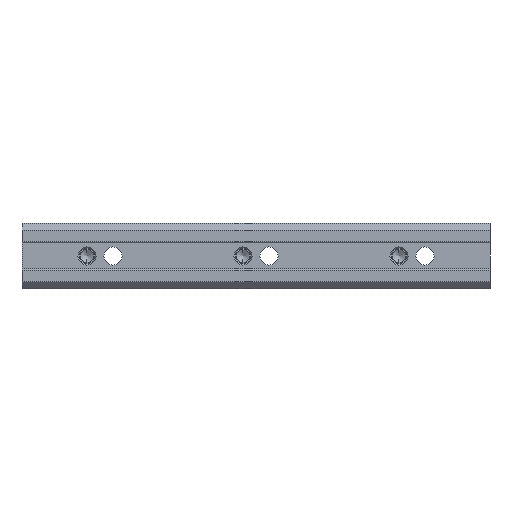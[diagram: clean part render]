
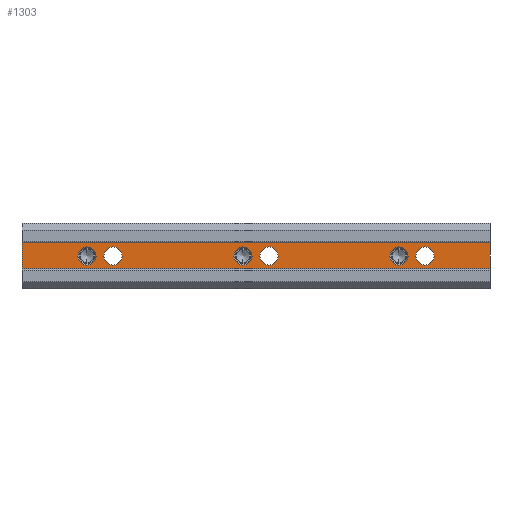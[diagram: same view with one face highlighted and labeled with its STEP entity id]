
A CAD part, front view. The second image highlights one B-rep face of the part: STEP entity #1303.
In plain terms, the highlighted planar face has unit normal (0, -1, 0).
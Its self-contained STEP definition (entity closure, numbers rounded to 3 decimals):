
#2 = LINE ( 'NONE', #354, #420 ) ;
#40 = AXIS2_PLACEMENT_3D ( 'NONE', #1088, #1925, #254 ) ;
#62 = ORIENTED_EDGE ( 'NONE', *, *, #1689, .T. ) ;
#83 = CARTESIAN_POINT ( 'NONE',  ( 25., 0.5, -3.5 ) ) ;
#87 = AXIS2_PLACEMENT_3D ( 'NONE', #1589, #723, #886 ) ;
#91 = EDGE_LOOP ( 'NONE', ( #1262, #941 ) ) ;
#96 = AXIS2_PLACEMENT_3D ( 'NONE', #1097, #2074, #1761 ) ;
#109 = EDGE_CURVE ( 'NONE', #430, #1278, #1981, .T. ) ;
#128 = DIRECTION ( 'NONE',  ( 0., 1., 0. ) ) ;
#132 = FACE_BOUND ( 'NONE', #91, .T. ) ;
#140 = DIRECTION ( 'NONE',  ( 0., 0., 1. ) ) ;
#157 = EDGE_CURVE ( 'NONE', #1154, #1553, #1290, .T. ) ;
#163 = ORIENTED_EDGE ( 'NONE', *, *, #1205, .T. ) ;
#169 = DIRECTION ( 'NONE',  ( 0., 0., -1. ) ) ;
#178 = DIRECTION ( 'NONE',  ( 0., 1., 0. ) ) ;
#186 = DIRECTION ( 'NONE',  ( 0., 1., 0. ) ) ;
#187 = CARTESIAN_POINT ( 'NONE',  ( 180., 0.5, -5. ) ) ;
#188 = CARTESIAN_POINT ( 'NONE',  ( 180., 0.5, -5. ) ) ;
#216 = AXIS2_PLACEMENT_3D ( 'NONE', #1579, #1928, #248 ) ;
#248 = DIRECTION ( 'NONE',  ( 0., 0., 1. ) ) ;
#254 = DIRECTION ( 'NONE',  ( 0., 0., 1. ) ) ;
#262 = ORIENTED_EDGE ( 'NONE', *, *, #314, .T. ) ;
#280 = VERTEX_POINT ( 'NONE', #1686 ) ;
#283 = VERTEX_POINT ( 'NONE', #188 ) ;
#291 = DIRECTION ( 'NONE',  ( 0., 0., 1. ) ) ;
#309 = PLANE ( 'NONE',  #364 ) ;
#314 = EDGE_CURVE ( 'NONE', #950, #1141, #1011, .T. ) ;
#322 = EDGE_LOOP ( 'NONE', ( #62, #163 ) ) ;
#323 = AXIS2_PLACEMENT_3D ( 'NONE', #1996, #1507, #508 ) ;
#329 = EDGE_CURVE ( 'NONE', #1879, #430, #2, .T. ) ;
#330 = ORIENTED_EDGE ( 'NONE', *, *, #157, .T. ) ;
#339 = VERTEX_POINT ( 'NONE', #1698 ) ;
#352 = VECTOR ( 'NONE', #676, 1000. ) ;
#354 = CARTESIAN_POINT ( 'NONE',  ( 180., 0.5, 5. ) ) ;
#359 = CIRCLE ( 'NONE', #1371, 3.5 ) ;
#364 = AXIS2_PLACEMENT_3D ( 'NONE', #975, #820, #1803 ) ;
#388 = EDGE_LOOP ( 'NONE', ( #330, #1775 ) ) ;
#400 = ORIENTED_EDGE ( 'NONE', *, *, #461, .T. ) ;
#415 = EDGE_CURVE ( 'NONE', #1879, #283, #1979, .T. ) ;
#420 = VECTOR ( 'NONE', #1174, 1000. ) ;
#430 = VERTEX_POINT ( 'NONE', #1335 ) ;
#461 = EDGE_CURVE ( 'NONE', #673, #946, #901, .T. ) ;
#499 = CARTESIAN_POINT ( 'NONE',  ( 25., 0.5, 0. ) ) ;
#508 = DIRECTION ( 'NONE',  ( 0., 0., 1. ) ) ;
#518 = CARTESIAN_POINT ( 'NONE',  ( 85., 0.5, 0. ) ) ;
#563 = CIRCLE ( 'NONE', #40, 3.5 ) ;
#569 = CARTESIAN_POINT ( 'NONE',  ( 85., 0.5, -3.5 ) ) ;
#574 = CARTESIAN_POINT ( 'NONE',  ( 155., 0.5, -3.5 ) ) ;
#575 = VERTEX_POINT ( 'NONE', #1377 ) ;
#608 = ORIENTED_EDGE ( 'NONE', *, *, #1521, .T. ) ;
#611 = LINE ( 'NONE', #1947, #1484 ) ;
#644 = CIRCLE ( 'NONE', #738, 3.5 ) ;
#664 = ORIENTED_EDGE ( 'NONE', *, *, #2010, .T. ) ;
#671 = AXIS2_PLACEMENT_3D ( 'NONE', #1785, #128, #291 ) ;
#673 = VERTEX_POINT ( 'NONE', #863 ) ;
#675 = AXIS2_PLACEMENT_3D ( 'NONE', #1682, #186, #1713 ) ;
#676 = DIRECTION ( 'NONE',  ( 0., 0., -1. ) ) ;
#703 = CARTESIAN_POINT ( 'NONE',  ( 145., 0.5, -3.5 ) ) ;
#723 = DIRECTION ( 'NONE',  ( 0., 1., 0. ) ) ;
#738 = AXIS2_PLACEMENT_3D ( 'NONE', #1103, #1641, #1940 ) ;
#758 = CARTESIAN_POINT ( 'NONE',  ( 145., 0.5, 3.5 ) ) ;
#795 = FACE_OUTER_BOUND ( 'NONE', #1178, .T. ) ;
#810 = FACE_BOUND ( 'NONE', #1323, .T. ) ;
#820 = DIRECTION ( 'NONE',  ( 0., 1., 0. ) ) ;
#823 = EDGE_CURVE ( 'NONE', #339, #575, #933, .T. ) ;
#863 = CARTESIAN_POINT ( 'NONE',  ( 155., 0.5, 3.5 ) ) ;
#886 = DIRECTION ( 'NONE',  ( 0., 0., 1. ) ) ;
#901 = CIRCLE ( 'NONE', #323, 3.5 ) ;
#912 = CARTESIAN_POINT ( 'NONE',  ( 25., 0.5, 3.5 ) ) ;
#917 = VERTEX_POINT ( 'NONE', #1918 ) ;
#933 = CIRCLE ( 'NONE', #96, 3.5 ) ;
#941 = ORIENTED_EDGE ( 'NONE', *, *, #823, .T. ) ;
#946 = VERTEX_POINT ( 'NONE', #574 ) ;
#950 = VERTEX_POINT ( 'NONE', #758 ) ;
#962 = VERTEX_POINT ( 'NONE', #1905 ) ;
#975 = CARTESIAN_POINT ( 'NONE',  ( 180., 0.5, -5. ) ) ;
#991 = CARTESIAN_POINT ( 'NONE',  ( 0., 0.5, -5. ) ) ;
#1011 = CIRCLE ( 'NONE', #2133, 3.5 ) ;
#1013 = CIRCLE ( 'NONE', #1045, 3.5 ) ;
#1045 = AXIS2_PLACEMENT_3D ( 'NONE', #518, #1806, #2132 ) ;
#1057 = EDGE_CURVE ( 'NONE', #1553, #1154, #1619, .T. ) ;
#1088 = CARTESIAN_POINT ( 'NONE',  ( 35., 0.5, 0. ) ) ;
#1097 = CARTESIAN_POINT ( 'NONE',  ( 35., 0.5, 0. ) ) ;
#1103 = CARTESIAN_POINT ( 'NONE',  ( 95., 0.5, 0. ) ) ;
#1116 = FACE_BOUND ( 'NONE', #322, .T. ) ;
#1141 = VERTEX_POINT ( 'NONE', #703 ) ;
#1154 = VERTEX_POINT ( 'NONE', #83 ) ;
#1169 = CIRCLE ( 'NONE', #216, 3.5 ) ;
#1174 = DIRECTION ( 'NONE',  ( -1., 0., 0. ) ) ;
#1178 = EDGE_LOOP ( 'NONE', ( #2166, #1221, #1659, #1787 ) ) ;
#1183 = VECTOR ( 'NONE', #169, 1000. ) ;
#1195 = DIRECTION ( 'NONE',  ( 0., 0., 1. ) ) ;
#1205 = EDGE_CURVE ( 'NONE', #917, #1902, #1867, .T. ) ;
#1221 = ORIENTED_EDGE ( 'NONE', *, *, #1978, .F. ) ;
#1262 = ORIENTED_EDGE ( 'NONE', *, *, #2005, .T. ) ;
#1278 = VERTEX_POINT ( 'NONE', #1765 ) ;
#1290 = CIRCLE ( 'NONE', #1388, 3.5 ) ;
#1303 = ADVANCED_FACE ( 'NONE', ( #1116, #1789, #810, #1627, #132, #795, #1976 ), #309, .F. ) ;
#1323 = EDGE_LOOP ( 'NONE', ( #1667, #1937 ) ) ;
#1327 = DIRECTION ( 'NONE',  ( 0., 1., 0. ) ) ;
#1335 = CARTESIAN_POINT ( 'NONE',  ( 0., 0.5, 5. ) ) ;
#1371 = AXIS2_PLACEMENT_3D ( 'NONE', #1623, #1609, #140 ) ;
#1377 = CARTESIAN_POINT ( 'NONE',  ( 35., 0.5, 3.5 ) ) ;
#1388 = AXIS2_PLACEMENT_3D ( 'NONE', #499, #1327, #2149 ) ;
#1392 = EDGE_CURVE ( 'NONE', #962, #280, #644, .T. ) ;
#1484 = VECTOR ( 'NONE', #1800, 1000. ) ;
#1507 = DIRECTION ( 'NONE',  ( 0., 1., 0. ) ) ;
#1521 = EDGE_CURVE ( 'NONE', #1141, #950, #1169, .T. ) ;
#1553 = VERTEX_POINT ( 'NONE', #912 ) ;
#1576 = CARTESIAN_POINT ( 'NONE',  ( 180., 0.5, 5. ) ) ;
#1579 = CARTESIAN_POINT ( 'NONE',  ( 145., 0.5, 0. ) ) ;
#1589 = CARTESIAN_POINT ( 'NONE',  ( 85., 0.5, 0. ) ) ;
#1609 = DIRECTION ( 'NONE',  ( 0., 1., 0. ) ) ;
#1619 = CIRCLE ( 'NONE', #675, 3.5 ) ;
#1623 = CARTESIAN_POINT ( 'NONE',  ( 95., 0.5, 0. ) ) ;
#1627 = FACE_BOUND ( 'NONE', #1656, .T. ) ;
#1641 = DIRECTION ( 'NONE',  ( 0., 1., 0. ) ) ;
#1656 = EDGE_LOOP ( 'NONE', ( #400, #664 ) ) ;
#1659 = ORIENTED_EDGE ( 'NONE', *, *, #415, .F. ) ;
#1667 = ORIENTED_EDGE ( 'NONE', *, *, #1392, .T. ) ;
#1682 = CARTESIAN_POINT ( 'NONE',  ( 25., 0.5, 0. ) ) ;
#1686 = CARTESIAN_POINT ( 'NONE',  ( 95., 0.5, -3.5 ) ) ;
#1689 = EDGE_CURVE ( 'NONE', #1902, #917, #1013, .T. ) ;
#1698 = CARTESIAN_POINT ( 'NONE',  ( 35., 0.5, -3.5 ) ) ;
#1713 = DIRECTION ( 'NONE',  ( 0., 0., 1. ) ) ;
#1761 = DIRECTION ( 'NONE',  ( 0., 0., 1. ) ) ;
#1765 = CARTESIAN_POINT ( 'NONE',  ( 0., 0.5, -5. ) ) ;
#1775 = ORIENTED_EDGE ( 'NONE', *, *, #1057, .T. ) ;
#1785 = CARTESIAN_POINT ( 'NONE',  ( 155., 0.5, 0. ) ) ;
#1787 = ORIENTED_EDGE ( 'NONE', *, *, #329, .T. ) ;
#1789 = FACE_BOUND ( 'NONE', #388, .T. ) ;
#1800 = DIRECTION ( 'NONE',  ( -1., 0., 0. ) ) ;
#1803 = DIRECTION ( 'NONE',  ( 0., 0., 1. ) ) ;
#1806 = DIRECTION ( 'NONE',  ( 0., 1., 0. ) ) ;
#1844 = CARTESIAN_POINT ( 'NONE',  ( 145., 0.5, 0. ) ) ;
#1867 = CIRCLE ( 'NONE', #87, 3.5 ) ;
#1879 = VERTEX_POINT ( 'NONE', #1576 ) ;
#1902 = VERTEX_POINT ( 'NONE', #569 ) ;
#1905 = CARTESIAN_POINT ( 'NONE',  ( 95., 0.5, 3.5 ) ) ;
#1918 = CARTESIAN_POINT ( 'NONE',  ( 85., 0.5, 3.5 ) ) ;
#1925 = DIRECTION ( 'NONE',  ( 0., 1., 0. ) ) ;
#1928 = DIRECTION ( 'NONE',  ( 0., 1., 0. ) ) ;
#1937 = ORIENTED_EDGE ( 'NONE', *, *, #1949, .T. ) ;
#1940 = DIRECTION ( 'NONE',  ( 0., 0., 1. ) ) ;
#1941 = EDGE_LOOP ( 'NONE', ( #608, #262 ) ) ;
#1947 = CARTESIAN_POINT ( 'NONE',  ( 180., 0.5, -5. ) ) ;
#1949 = EDGE_CURVE ( 'NONE', #280, #962, #359, .T. ) ;
#1976 = FACE_BOUND ( 'NONE', #1941, .T. ) ;
#1978 = EDGE_CURVE ( 'NONE', #283, #1278, #611, .T. ) ;
#1979 = LINE ( 'NONE', #187, #352 ) ;
#1981 = LINE ( 'NONE', #991, #1183 ) ;
#1996 = CARTESIAN_POINT ( 'NONE',  ( 155., 0.5, 0. ) ) ;
#2005 = EDGE_CURVE ( 'NONE', #575, #339, #563, .T. ) ;
#2010 = EDGE_CURVE ( 'NONE', #946, #673, #2061, .T. ) ;
#2061 = CIRCLE ( 'NONE', #671, 3.5 ) ;
#2074 = DIRECTION ( 'NONE',  ( 0., 1., 0. ) ) ;
#2132 = DIRECTION ( 'NONE',  ( 0., 0., 1. ) ) ;
#2133 = AXIS2_PLACEMENT_3D ( 'NONE', #1844, #178, #1195 ) ;
#2149 = DIRECTION ( 'NONE',  ( 0., 0., 1. ) ) ;
#2166 = ORIENTED_EDGE ( 'NONE', *, *, #109, .T. ) ;
